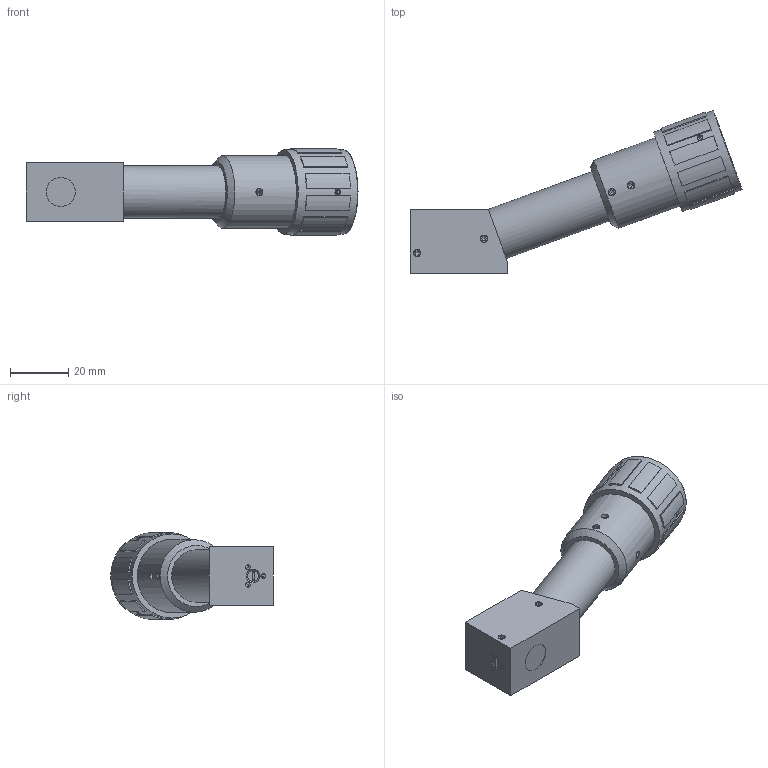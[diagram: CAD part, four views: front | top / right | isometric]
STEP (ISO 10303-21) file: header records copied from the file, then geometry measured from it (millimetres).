
FILE_DESCRIPTION((''),'2;1');
FILE_NAME('F:\Microscope\MA 118-020.stp','2012-11-22T10:07:30',('dk'),(''),'Autodesk Inventor 2013','Autodesk Inventor 2013','');
FILE_SCHEMA(('AUTOMOTIVE_DESIGN { 1 0 10303 214 1 1 1 1 }'));
Length unit declared in the file: millimetre
Products named in the file (1): Pièce27
Bounding box: 114.38 x 56.05 x 29.88 mm (x, y, z)
Volume: 28805.3 mm3; surface area: 19625.2 mm2
Topology: 2 solids, 9 shells, 373 faces, 901 edges, 601 vertices
Faces by surface type: plane 219, cylinder 88, cone 60, sphere 3, bspline 2, torus 1
Full cylindrical faces by diameter (mm): 1.509 x1, 1.567 x4, 1.75 x1, 2 x1, 2.013 x6, 2.459 x18, 2.6 x1, 3 x4, 4 x1, 8.459 x2, 9 x1, 10 x5, 11 x1, 14 x1, 15 x1, 15.5 x1, 16 x1, 17 x1, 18 x3, 19 x1, 20 x2, 21 x1, 22 x1, 23 x1, 24 x1, 25 x2, 25.4 x1, 29 x1
Entity records: 10980 total; most frequent: CARTESIAN_POINT 2884, DIRECTION 1545, ORIENTED_EDGE 1424, EDGE_CURVE 712, AXIS2_PLACEMENT_3D 618, EDGE_LOOP 561, VERTEX_POINT 523, STYLED_ITEM 374
